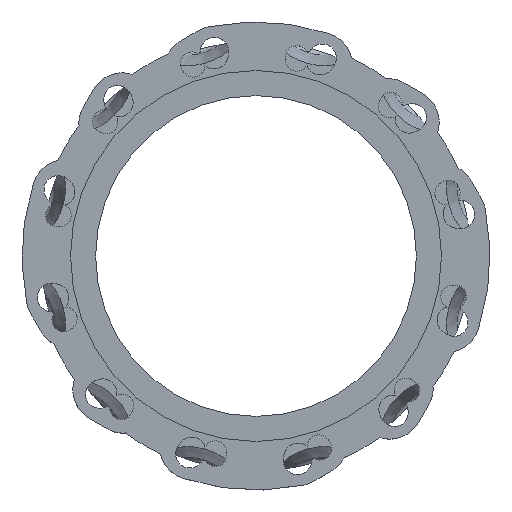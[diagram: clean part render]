
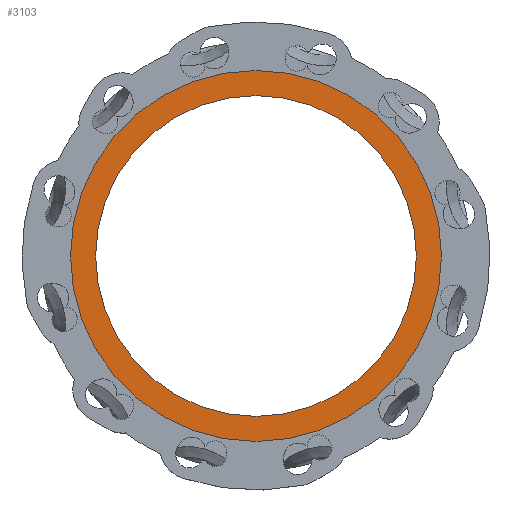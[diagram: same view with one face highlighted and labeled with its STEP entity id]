
A CAD part, top view. The second image highlights one B-rep face of the part: STEP entity #3103.
In plain terms, the highlighted planar face has unit normal (0, 0, 1).
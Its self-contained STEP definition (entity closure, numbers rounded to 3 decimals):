
#2=CARTESIAN_POINT('',(0.,0.,0.));
#3=DIRECTION('',(0.,0.,1.));
#4=DIRECTION('',(0.,1.,0.));
#5=AXIS2_PLACEMENT_3D('',#2,#3,#4);
#11=CARTESIAN_POINT('',(0.,0.,0.));
#12=DIRECTION('',(0.,0.,-1.));
#13=DIRECTION('',(0.,1.,0.));
#14=AXIS2_PLACEMENT_3D('',#11,#12,#13);
#20=CARTESIAN_POINT('',(0.,0.,0.));
#21=DIRECTION('',(0.,0.,1.));
#22=DIRECTION('',(0.,1.,0.));
#23=AXIS2_PLACEMENT_3D('',#20,#21,#22);
#25=CARTESIAN_POINT('',(0.,0.,0.));
#26=DIRECTION('',(0.,0.,-1.));
#27=DIRECTION('',(0.,1.,0.));
#28=AXIS2_PLACEMENT_3D('',#25,#26,#27);
#2362=CARTESIAN_POINT('',(0.,160.,0.));
#2364=VERTEX_POINT('',#2362);
#2370=CARTESIAN_POINT('',(0.,-160.,0.));
#2372=VERTEX_POINT('',#2370);
#2395=CARTESIAN_POINT('',(0.,185.,0.));
#2397=VERTEX_POINT('',#2395);
#2399=CARTESIAN_POINT('',(0.,-185.,0.));
#2401=VERTEX_POINT('',#2399);
#3088=CARTESIAN_POINT('',(0.,0.,0.));
#3089=DIRECTION('',(0.,0.,1.));
#3090=DIRECTION('',(0.,1.,0.));
#3091=AXIS2_PLACEMENT_3D('',#3088,#3089,#3090);
#3092=PLANE('',#3091);
#3094=ORIENTED_EDGE('',*,*,#3093,.F.);
#3096=ORIENTED_EDGE('',*,*,#3095,.T.);
#3097=EDGE_LOOP('',(#3094,#3096));
#3098=FACE_OUTER_BOUND('',#3097,.F.);
#3099=ORIENTED_EDGE('',*,*,#3080,.F.);
#3100=ORIENTED_EDGE('',*,*,#3069,.T.);
#3101=EDGE_LOOP('',(#3099,#3100));
#3102=FACE_BOUND('',#3101,.F.);
#3103=ADVANCED_FACE('',(#3098,#3102),#3092,.T.);
#6=CIRCLE('',#5,160.);
#15=CIRCLE('',#14,160.);
#24=CIRCLE('',#23,185.);
#29=CIRCLE('',#28,185.);
#3069=EDGE_CURVE('',#2364,#2372,#6,.T.);
#3080=EDGE_CURVE('',#2364,#2372,#15,.T.);
#3093=EDGE_CURVE('',#2397,#2401,#24,.T.);
#3095=EDGE_CURVE('',#2397,#2401,#29,.T.);
